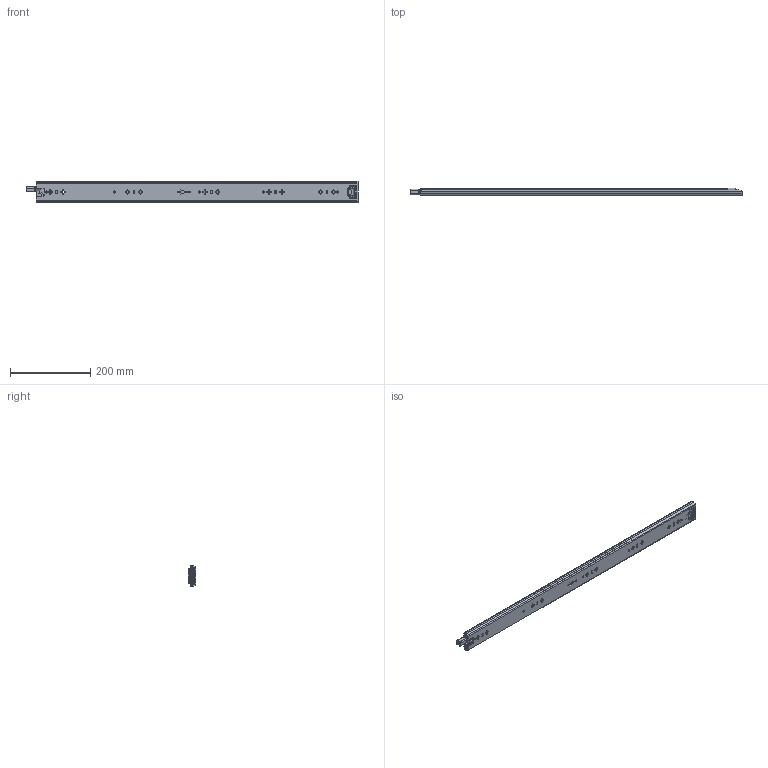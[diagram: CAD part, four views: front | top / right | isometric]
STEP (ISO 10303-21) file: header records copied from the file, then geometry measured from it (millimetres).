
FILE_DESCRIPTION((''),'2;1');
FILE_NAME('1053-3S-32YOU_ASM','2023-04-12T',('jishu015'),(''),'PRO/ENGINEER BY PARAMETRIC TECHNOLOGY CORPORATION, 2010280','PRO/ENGINEER BY PARAMETRIC TECHNOLOGY CORPORATION, 2010280','');
FILE_SCHEMA(('CONFIG_CONTROL_DESIGN'));
Products named in the file (20): 1053-02-18WAIKE___________; 1053WEIJIAO___________; 1053-3S-24WAIKE____________ASM; 1053ZHUTIAO-175___________; 53-5-6GANZHU___________; 1053ZHUTIAO-175MM____________ASM; 1053-02-18ZHONGGUI___________; ZHONGGUIPEIJIAN_________; ZHONGGUISUOKOU_________; 1053-02-18ZHONGGUI____________ASM; 1053XIAOZHUJIA-14GE___________; 1053XIAOZHUJIA-14GE____________ASM; 1053-02-18NEIGUI___________; DAOPIAN_______; PIAN_______; 1053-3SBANJI123______; JIAO-11______; 50XINSUOKOU11_____; 1053-02-18NEIGUI____________ASM; 1053-3S-32YOU_ASM
Assembly tree (89 placements, depth 3):
  1053-3S-32YOU_ASM
    1053-3S-24WAIKE____________ASM
      1053-02-18WAIKE___________
      1053WEIJIAO___________
    1053ZHUTIAO-175MM____________ASM  x2
      1053ZHUTIAO-175___________
      53-5-6GANZHU___________
    1053-02-18ZHONGGUI____________ASM
      1053-02-18ZHONGGUI___________
      ZHONGGUIPEIJIAN_________
      ZHONGGUISUOKOU_________
    1053XIAOZHUJIA-14GE____________ASM
      1053XIAOZHUJIA-14GE___________
      53-5-6GANZHU___________  x56
    1053-02-18NEIGUI____________ASM
      1053-02-18NEIGUI___________
      DAOPIAN_______
      PIAN_______
      1053-3SBANJI123______
      JIAO-11______
      50XINSUOKOU11_____
Bounding box: 825.42 x 18.7 x 53 mm (x, y, z)
Volume: 304292.4 mm3; surface area: 352723.6 mm2
Topology: 99 solids, 99 shells, 2558 faces, 7409 edges, 4632 vertices
Faces by surface type: cylinder 1111, plane 1034, sphere 176, bspline 112, cone 86, extrusion 23, torus 16
Entity records: 83040 total; most frequent: CARTESIAN_POINT 20772, ORIENTED_EDGE 13238, DIRECTION 12773, EDGE_CURVE 6619, AXIS2_PLACEMENT_3D 4418, VERTEX_POINT 4280, VECTOR 3937, LINE 3914
